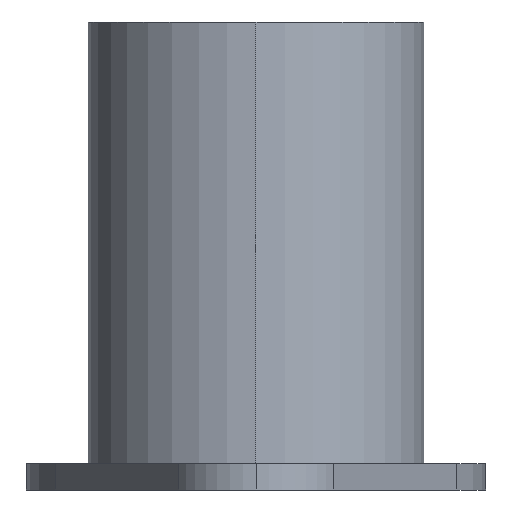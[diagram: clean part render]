
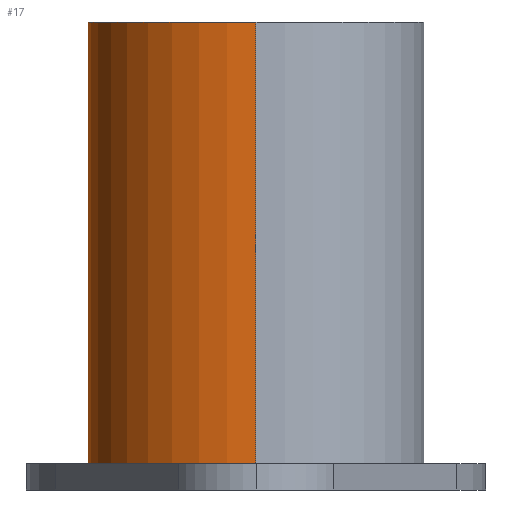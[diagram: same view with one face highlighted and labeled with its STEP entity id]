
A CAD part, left-side view. The second image highlights one B-rep face of the part: STEP entity #17.
In plain terms, the highlighted cylindrical face has radius 19 mm (diameter 38 mm), a partial arc.
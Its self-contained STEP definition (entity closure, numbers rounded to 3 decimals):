
#11 = VERTEX_POINT ( 'NONE', #144 ) ;
#17 = ADVANCED_FACE ( 'NONE', ( #412 ), #396, .T. ) ;
#26 = ORIENTED_EDGE ( 'NONE', *, *, #765, .F. ) ;
#41 = LINE ( 'NONE', #179, #53 ) ;
#53 = VECTOR ( 'NONE', #187, 1000. ) ;
#72 = LINE ( 'NONE', #562, #82 ) ;
#77 = ORIENTED_EDGE ( 'NONE', *, *, #751, .T. ) ;
#82 = VECTOR ( 'NONE', #535, 1000. ) ;
#95 = DIRECTION ( 'NONE',  ( 0., 0., -1. ) ) ;
#110 = VERTEX_POINT ( 'NONE', #495 ) ;
#142 = CIRCLE ( 'NONE', #575, 19. ) ;
#144 = CARTESIAN_POINT ( 'NONE',  ( 89.322, 94.841, 0. ) ) ;
#172 = VERTEX_POINT ( 'NONE', #451 ) ;
#175 = DIRECTION ( 'NONE',  ( -1., 0., 0. ) ) ;
#179 = CARTESIAN_POINT ( 'NONE',  ( 127.322, 94.841, 53. ) ) ;
#187 = DIRECTION ( 'NONE',  ( 0., 0., -1. ) ) ;
#215 = ORIENTED_EDGE ( 'NONE', *, *, #682, .T. ) ;
#218 = CARTESIAN_POINT ( 'NONE',  ( 108.322, 94.841, 53. ) ) ;
#301 = VERTEX_POINT ( 'NONE', #549 ) ;
#383 = DIRECTION ( 'NONE',  ( 1., 0., 0. ) ) ;
#396 = CYLINDRICAL_SURFACE ( 'NONE', #697, 19. ) ;
#412 = FACE_OUTER_BOUND ( 'NONE', #730, .T. ) ;
#439 = CARTESIAN_POINT ( 'NONE',  ( 108.322, 94.841, 53. ) ) ;
#441 = DIRECTION ( 'NONE',  ( 0., 0., 1. ) ) ;
#443 = DIRECTION ( 'NONE',  ( 1., 0., 0. ) ) ;
#451 = CARTESIAN_POINT ( 'NONE',  ( 89.322, 94.841, 53. ) ) ;
#493 = DIRECTION ( 'NONE',  ( 0., 0., 1. ) ) ;
#495 = CARTESIAN_POINT ( 'NONE',  ( 127.322, 94.841, 0. ) ) ;
#535 = DIRECTION ( 'NONE',  ( 0., 0., -1. ) ) ;
#549 = CARTESIAN_POINT ( 'NONE',  ( 127.322, 94.841, 53. ) ) ;
#562 = CARTESIAN_POINT ( 'NONE',  ( 89.322, 94.841, 53. ) ) ;
#575 = AXIS2_PLACEMENT_3D ( 'NONE', #605, #493, #383 ) ;
#580 = AXIS2_PLACEMENT_3D ( 'NONE', #439, #441, #443 ) ;
#605 = CARTESIAN_POINT ( 'NONE',  ( 108.322, 94.841, 0. ) ) ;
#672 = EDGE_CURVE ( 'NONE', #301, #172, #768, .T. ) ;
#682 = EDGE_CURVE ( 'NONE', #110, #11, #142, .T. ) ;
#697 = AXIS2_PLACEMENT_3D ( 'NONE', #218, #95, #175 ) ;
#730 = EDGE_LOOP ( 'NONE', ( #763, #77, #215, #26 ) ) ;
#751 = EDGE_CURVE ( 'NONE', #301, #110, #41, .T. ) ;
#763 = ORIENTED_EDGE ( 'NONE', *, *, #672, .F. ) ;
#765 = EDGE_CURVE ( 'NONE', #172, #11, #72, .T. ) ;
#768 = CIRCLE ( 'NONE', #580, 19. ) ;
